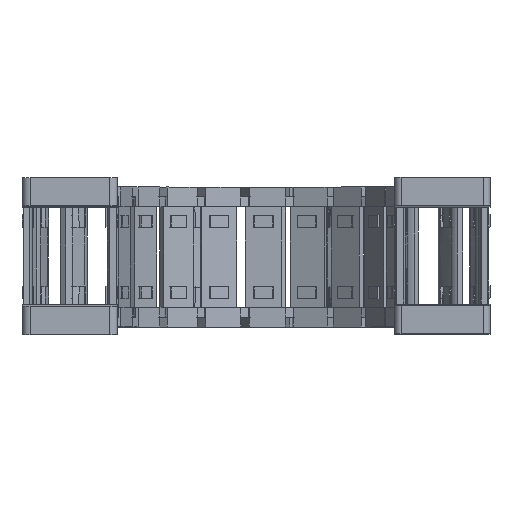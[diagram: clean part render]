
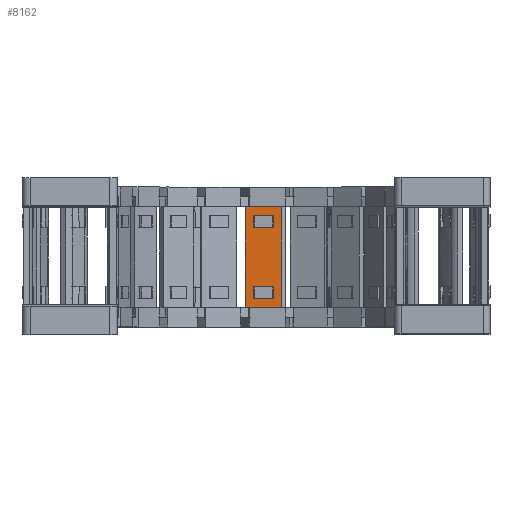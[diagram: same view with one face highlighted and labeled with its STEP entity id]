
A CAD part, top view. The second image highlights one B-rep face of the part: STEP entity #8162.
In plain terms, the highlighted planar face has unit normal (-0.044, 0, 0.999).
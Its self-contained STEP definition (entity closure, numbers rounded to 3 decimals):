
#8162=ADVANCED_FACE('',(#34153,#34154,#34155),#12009,.F.);
#12009=PLANE('',#94497);
#18798=LINE('',#136860,#28174);
#18852=LINE('',#137019,#28228);
#18917=LINE('',#137379,#28293);
#18918=LINE('',#137381,#28294);
#18922=LINE('',#137389,#28298);
#19015=LINE('',#137690,#28391);
#19049=LINE('',#137800,#28425);
#19098=LINE('',#138124,#28474);
#19102=LINE('',#138136,#28478);
#19113=LINE('',#138161,#28489);
#19117=LINE('',#138168,#28493);
#19119=LINE('',#138172,#28495);
#19124=LINE('',#138202,#28500);
#19128=LINE('',#138212,#28504);
#19133=LINE('',#138244,#28509);
#19134=LINE('',#138245,#28510);
#19135=LINE('',#138246,#28511);
#19136=LINE('',#138248,#28512);
#28174=VECTOR('',#107755,1.);
#28228=VECTOR('',#107845,1.);
#28293=VECTOR('',#108062,1.);
#28294=VECTOR('',#108065,1.);
#28298=VECTOR('',#108071,1.);
#28391=VECTOR('',#108280,1.);
#28425=VECTOR('',#108338,1.);
#28474=VECTOR('',#108521,1.);
#28478=VECTOR('',#108531,1.);
#28489=VECTOR('',#108552,1.);
#28493=VECTOR('',#108558,1.);
#28495=VECTOR('',#108562,1.);
#28500=VECTOR('',#108575,1.);
#28504=VECTOR('',#108585,1.);
#28509=VECTOR('',#108604,1.);
#28510=VECTOR('',#108605,1.);
#28511=VECTOR('',#108606,1.);
#28512=VECTOR('',#108607,1.);
#34153=FACE_BOUND('',#36376,.T.);
#34154=FACE_BOUND('',#36377,.T.);
#34155=FACE_BOUND('',#36378,.T.);
#36376=EDGE_LOOP('',(#50539,#50540,#50541,#50542,#50543,#50544));
#36377=EDGE_LOOP('',(#50545,#50546,#50547,#50548,#50549,#50550));
#36378=EDGE_LOOP('',(#50551,#50552,#50553,#50554,#50555,#50556));
#50539=ORIENTED_EDGE('',*,*,#81401,.T.);
#50540=ORIENTED_EDGE('',*,*,#81349,.F.);
#50541=ORIENTED_EDGE('',*,*,#81216,.F.);
#50542=ORIENTED_EDGE('',*,*,#81373,.F.);
#50543=ORIENTED_EDGE('',*,*,#80906,.F.);
#50544=ORIENTED_EDGE('',*,*,#81083,.F.);
#50545=ORIENTED_EDGE('',*,*,#81402,.F.);
#50546=ORIENTED_EDGE('',*,*,#81383,.T.);
#50547=ORIENTED_EDGE('',*,*,#81371,.T.);
#50548=ORIENTED_EDGE('',*,*,#81355,.F.);
#50549=ORIENTED_EDGE('',*,*,#81258,.F.);
#50550=ORIENTED_EDGE('',*,*,#81388,.F.);
#50551=ORIENTED_EDGE('',*,*,#81084,.F.);
#50552=ORIENTED_EDGE('',*,*,#81367,.T.);
#50553=ORIENTED_EDGE('',*,*,#81403,.T.);
#50554=ORIENTED_EDGE('',*,*,#81404,.F.);
#50555=ORIENTED_EDGE('',*,*,#81088,.F.);
#50556=ORIENTED_EDGE('',*,*,#80972,.F.);
#70000=VERTEX_POINT('',#136859);
#70001=VERTEX_POINT('',#136861);
#70027=VERTEX_POINT('',#136943);
#70053=VERTEX_POINT('',#137006);
#70118=VERTEX_POINT('',#137378);
#70119=VERTEX_POINT('',#137382);
#70122=VERTEX_POINT('',#137390);
#70209=VERTEX_POINT('',#137689);
#70210=VERTEX_POINT('',#137691);
#70230=VERTEX_POINT('',#137762);
#70244=VERTEX_POINT('',#137792);
#70296=VERTEX_POINT('',#138125);
#70301=VERTEX_POINT('',#138137);
#70309=VERTEX_POINT('',#138160);
#70312=VERTEX_POINT('',#138169);
#70318=VERTEX_POINT('',#138203);
#70320=VERTEX_POINT('',#138211);
#70325=VERTEX_POINT('',#138247);
#80906=EDGE_CURVE('',#70000,#70001,#18798,.T.);
#80972=EDGE_CURVE('',#70053,#70027,#18852,.T.);
#81083=EDGE_CURVE('',#70118,#70000,#18917,.T.);
#81084=EDGE_CURVE('',#70119,#70053,#18918,.T.);
#81088=EDGE_CURVE('',#70027,#70122,#18922,.T.);
#81216=EDGE_CURVE('',#70209,#70210,#19015,.T.);
#81258=EDGE_CURVE('',#70230,#70244,#19049,.T.);
#81349=EDGE_CURVE('',#70210,#70296,#19098,.T.);
#81355=EDGE_CURVE('',#70244,#70301,#19102,.T.);
#81367=EDGE_CURVE('',#70119,#70309,#19113,.T.);
#81371=EDGE_CURVE('',#70312,#70301,#19117,.T.);
#81373=EDGE_CURVE('',#70001,#70209,#19119,.T.);
#81383=EDGE_CURVE('',#70318,#70312,#19124,.T.);
#81388=EDGE_CURVE('',#70320,#70230,#19128,.T.);
#81401=EDGE_CURVE('',#70118,#70296,#19133,.T.);
#81402=EDGE_CURVE('',#70318,#70320,#19134,.T.);
#81403=EDGE_CURVE('',#70309,#70325,#19135,.T.);
#81404=EDGE_CURVE('',#70122,#70325,#19136,.T.);
#94497=AXIS2_PLACEMENT_3D('',#138249,#108608,#108609);
#107755=DIRECTION('',(0.999,0.,0.044));
#107845=DIRECTION('',(-0.999,0.,-0.044));
#108062=DIRECTION('',(0.999,0.,0.044));
#108065=DIRECTION('',(-0.999,0.,-0.044));
#108071=DIRECTION('',(-0.999,0.,-0.044));
#108280=DIRECTION('',(-0.999,0.,-0.044));
#108338=DIRECTION('',(0.999,0.,0.044));
#108521=DIRECTION('',(-0.999,0.,-0.044));
#108531=DIRECTION('',(0.999,0.,0.044));
#108552=DIRECTION('',(0.,-1.,0.));
#108558=DIRECTION('',(0.,-1.,0.));
#108562=DIRECTION('',(0.,-1.,0.));
#108575=DIRECTION('',(0.999,0.,0.044));
#108585=DIRECTION('',(0.999,0.,0.044));
#108604=DIRECTION('',(0.,-1.,0.));
#108605=DIRECTION('',(0.,-1.,0.));
#108606=DIRECTION('',(-0.999,0.,-0.044));
#108607=DIRECTION('',(0.,-1.,0.));
#108608=DIRECTION('',(0.044,0.,-0.999));
#108609=DIRECTION('',(0.999,0.,0.044));
#136859=CARTESIAN_POINT('',(402.05,134.434,711.867));
#136860=CARTESIAN_POINT('',(401.714,134.434,711.853));
#136861=CARTESIAN_POINT('',(412.104,134.434,712.306));
#136943=CARTESIAN_POINT('',(403.765,131.822,711.942));
#137006=CARTESIAN_POINT('',(409.453,131.822,712.191));
#137019=CARTESIAN_POINT('',(409.627,131.822,712.198));
#137378=CARTESIAN_POINT('',(401.114,134.434,711.827));
#137379=CARTESIAN_POINT('',(401.714,134.434,711.853));
#137381=CARTESIAN_POINT('',(409.627,131.822,712.198));
#137382=CARTESIAN_POINT('',(409.627,131.822,712.198));
#137389=CARTESIAN_POINT('',(409.627,131.822,712.198));
#137390=CARTESIAN_POINT('',(403.591,131.822,711.935));
#137689=CARTESIAN_POINT('',(412.104,103.934,712.306));
#137690=CARTESIAN_POINT('',(401.714,103.934,711.853));
#137691=CARTESIAN_POINT('',(402.05,103.934,711.867));
#137762=CARTESIAN_POINT('',(403.765,106.545,711.942));
#137792=CARTESIAN_POINT('',(409.453,106.545,712.191));
#137800=CARTESIAN_POINT('',(409.627,106.545,712.198));
#138124=CARTESIAN_POINT('',(401.714,103.934,711.853));
#138125=CARTESIAN_POINT('',(401.114,103.934,711.827));
#138136=CARTESIAN_POINT('',(409.627,106.545,712.198));
#138137=CARTESIAN_POINT('',(409.627,106.545,712.198));
#138160=CARTESIAN_POINT('',(409.627,128.15,712.198));
#138161=CARTESIAN_POINT('',(409.627,146.919,712.198));
#138168=CARTESIAN_POINT('',(409.627,91.448,712.198));
#138169=CARTESIAN_POINT('',(409.627,110.218,712.198));
#138172=CARTESIAN_POINT('',(412.104,66.448,712.306));
#138202=CARTESIAN_POINT('',(409.627,110.218,712.198));
#138203=CARTESIAN_POINT('',(403.591,110.218,711.935));
#138211=CARTESIAN_POINT('',(403.591,106.545,711.935));
#138212=CARTESIAN_POINT('',(409.627,106.545,712.198));
#138244=CARTESIAN_POINT('',(401.114,66.448,711.827));
#138245=CARTESIAN_POINT('',(403.591,91.448,711.935));
#138246=CARTESIAN_POINT('',(409.627,128.15,712.198));
#138247=CARTESIAN_POINT('',(403.591,128.15,711.935));
#138248=CARTESIAN_POINT('',(403.591,146.919,711.935));
#138249=CARTESIAN_POINT('',(399.637,66.448,711.762));
